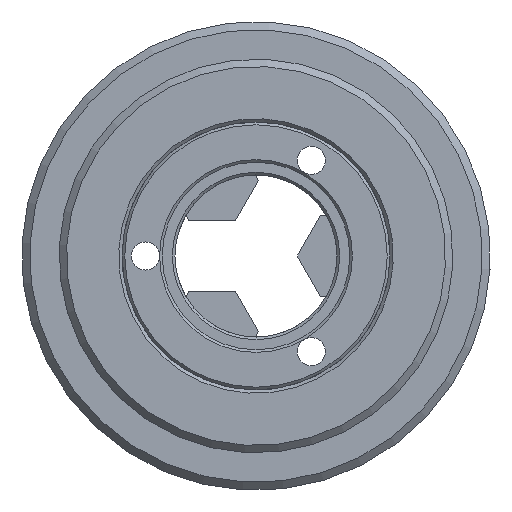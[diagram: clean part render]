
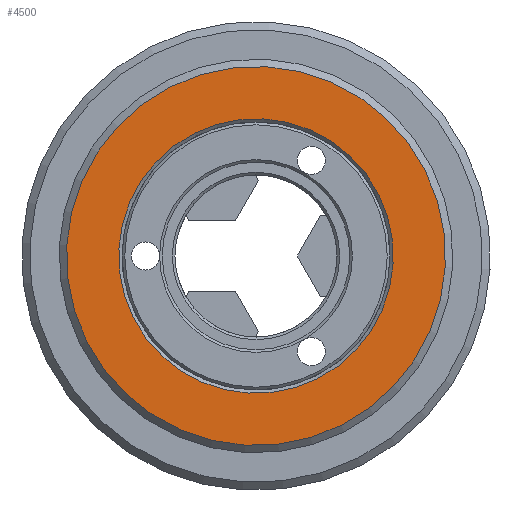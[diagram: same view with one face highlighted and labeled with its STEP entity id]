
A CAD part, left-side view. The second image highlights one B-rep face of the part: STEP entity #4500.
In plain terms, the highlighted planar face has unit normal (-1, 0, 0) as drawn and (1, 0, 0) by its records, which use the part's own axes.
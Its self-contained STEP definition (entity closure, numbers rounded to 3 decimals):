
#174=PLANE('',#4841);
#292=FACE_BOUND('',#1447,.T.);
#293=FACE_BOUND('',#1448,.T.);
#1447=EDGE_LOOP('',(#3317));
#1448=EDGE_LOOP('',(#3318));
#1719=CIRCLE('',#4842,10.25);
#1720=CIRCLE('',#4843,14.15);
#1999=VERTEX_POINT('',#6551);
#2000=VERTEX_POINT('',#6553);
#2486=EDGE_CURVE('',#1999,#1999,#1719,.T.);
#2487=EDGE_CURVE('',#2000,#2000,#1720,.T.);
#3317=ORIENTED_EDGE('',*,*,#2486,.F.);
#3318=ORIENTED_EDGE('',*,*,#2487,.F.);
#4500=ADVANCED_FACE('',(#292,#293),#174,.F.);
#4841=AXIS2_PLACEMENT_3D('',#6550,#5433,#5434);
#4842=AXIS2_PLACEMENT_3D('',#6552,#5435,#5436);
#4843=AXIS2_PLACEMENT_3D('',#6554,#5437,#5438);
#5433=DIRECTION('center_axis',(-1.,0.,0.));
#5434=DIRECTION('ref_axis',(0.,0.,1.));
#5435=DIRECTION('center_axis',(1.,0.,0.));
#5436=DIRECTION('ref_axis',(0.,0.,1.));
#5437=DIRECTION('center_axis',(-1.,0.,0.));
#5438=DIRECTION('ref_axis',(0.,1.,0.));
#6550=CARTESIAN_POINT('Origin',(9.4,0.,0.));
#6551=CARTESIAN_POINT('',(9.4,0.,-10.25));
#6552=CARTESIAN_POINT('Origin',(9.4,0.,0.));
#6553=CARTESIAN_POINT('',(9.4,-14.15,0.));
#6554=CARTESIAN_POINT('Origin',(9.4,0.,0.));
